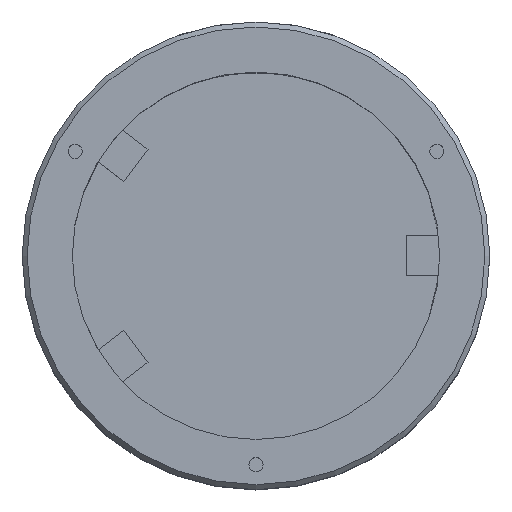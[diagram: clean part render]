
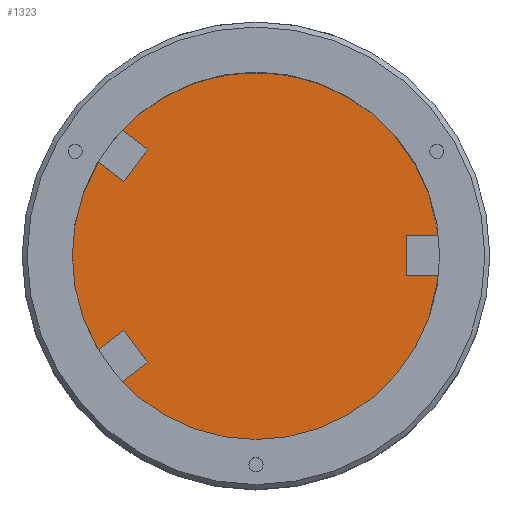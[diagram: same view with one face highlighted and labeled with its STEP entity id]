
A CAD part, top view. The second image highlights one B-rep face of the part: STEP entity #1323.
In plain terms, the highlighted planar face has unit normal (0, 0, 1).
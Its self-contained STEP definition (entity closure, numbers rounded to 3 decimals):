
#373 = CYLINDRICAL_SURFACE('',#374,22.);
#374 = AXIS2_PLACEMENT_3D('',#375,#376,#377);
#375 = CARTESIAN_POINT('',(0.,0.,2.4));
#376 = DIRECTION('',(-0.,-0.,-1.));
#377 = DIRECTION('',(1.,0.,0.));
#685 = EDGE_CURVE('',#686,#686,#688,.T.);
#686 = VERTEX_POINT('',#687);
#687 = CARTESIAN_POINT('',(22.,0.,2.4));
#688 = SURFACE_CURVE('',#689,(#694,#701),.PCURVE_S1.);
#689 = CIRCLE('',#690,22.);
#690 = AXIS2_PLACEMENT_3D('',#691,#692,#693);
#691 = CARTESIAN_POINT('',(0.,0.,2.4));
#692 = DIRECTION('',(0.,0.,1.));
#693 = DIRECTION('',(1.,0.,0.));
#694 = PCURVE('',#373,#695);
#695 = DEFINITIONAL_REPRESENTATION('',(#696),#700);
#696 = LINE('',#697,#698);
#697 = CARTESIAN_POINT('',(-0.,0.));
#698 = VECTOR('',#699,1.);
#699 = DIRECTION('',(-1.,0.));
#700 = ( GEOMETRIC_REPRESENTATION_CONTEXT(2) 
PARAMETRIC_REPRESENTATION_CONTEXT() REPRESENTATION_CONTEXT('2D SPACE',''
  ) );
#701 = PCURVE('',#702,#707);
#702 = PLANE('',#703);
#703 = AXIS2_PLACEMENT_3D('',#704,#705,#706);
#704 = CARTESIAN_POINT('',(0.,0.,2.4));
#705 = DIRECTION('',(0.,0.,1.));
#706 = DIRECTION('',(1.,0.,-0.));
#707 = DEFINITIONAL_REPRESENTATION('',(#708),#712);
#708 = CIRCLE('',#709,22.);
#709 = AXIS2_PLACEMENT_2D('',#710,#711);
#710 = CARTESIAN_POINT('',(0.,0.));
#711 = DIRECTION('',(1.,0.));
#712 = ( GEOMETRIC_REPRESENTATION_CONTEXT(2) 
PARAMETRIC_REPRESENTATION_CONTEXT() REPRESENTATION_CONTEXT('2D SPACE',''
  ) );
#1323 = ADVANCED_FACE('',(#1324),#702,.T.);
#1324 = FACE_BOUND('',#1325,.T.);
#1325 = EDGE_LOOP('',(#1326));
#1326 = ORIENTED_EDGE('',*,*,#685,.T.);
